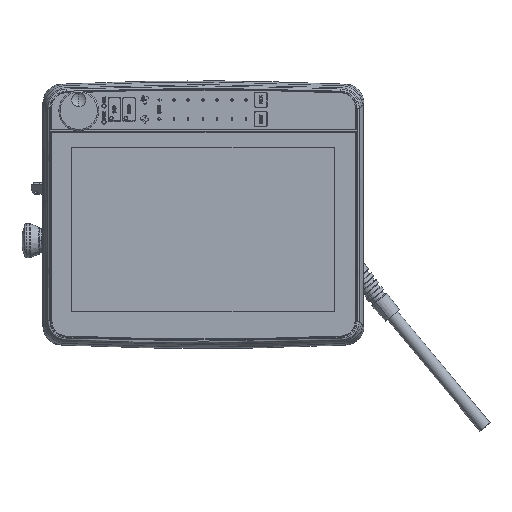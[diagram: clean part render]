
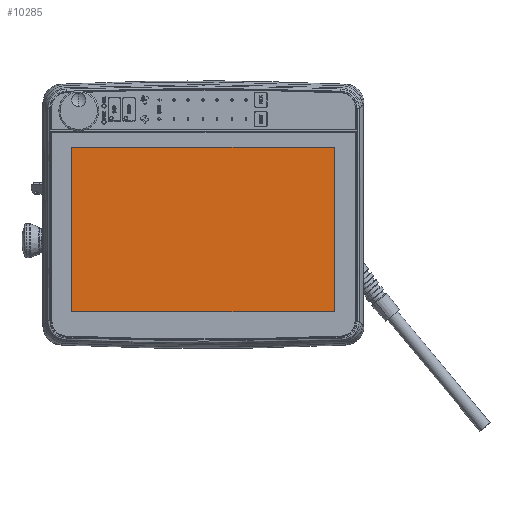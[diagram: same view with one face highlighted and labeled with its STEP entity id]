
A CAD part, top view. The second image highlights one B-rep face of the part: STEP entity #10285.
In plain terms, the highlighted planar face has unit normal (0, 0, 1).
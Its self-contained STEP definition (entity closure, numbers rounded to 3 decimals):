
#10285=ADVANCED_FACE('',(#22187),#22188,.F.);
#22187=FACE_OUTER_BOUND('',#58406,.T.);
#22188=PLANE('',#58407);
#58406=EDGE_LOOP('',(#123616,#123617,#123618,#123619));
#58407=AXIS2_PLACEMENT_3D('',#123620,#123621,#123622);
#123616=ORIENTED_EDGE('',*,*,#146702,.F.);
#123617=ORIENTED_EDGE('',*,*,#146703,.F.);
#123618=ORIENTED_EDGE('',*,*,#146704,.F.);
#123619=ORIENTED_EDGE('',*,*,#146705,.F.);
#123620=CARTESIAN_POINT('',(0.,0.,11.75));
#123621=DIRECTION('',(0.0,0.0,-1.0));
#123622=DIRECTION('',(-1.0,0.0,0.0));
#146702=EDGE_CURVE('',#167487,#167488,#167489,.T.);
#146703=EDGE_CURVE('',#167490,#167487,#167491,.T.);
#146704=EDGE_CURVE('',#167492,#167490,#167493,.T.);
#146705=EDGE_CURVE('',#167488,#167492,#167494,.T.);
#167487=VERTEX_POINT('',#218982);
#167488=VERTEX_POINT('',#218983);
#167489=LINE('',#218984,#218985);
#167490=VERTEX_POINT('',#218986);
#167491=LINE('',#218987,#218988);
#167492=VERTEX_POINT('',#218989);
#167493=LINE('',#218990,#218991);
#167494=LINE('',#218992,#218993);
#218982=CARTESIAN_POINT('',(-109.33,-80.45,11.75));
#218983=CARTESIAN_POINT('',(-109.33,55.85,11.75));
#218984=CARTESIAN_POINT('',(-109.33,-80.45,11.75));
#218985=VECTOR('',#260541,1000.0);
#218986=CARTESIAN_POINT('',(108.33,-80.45,11.75));
#218987=CARTESIAN_POINT('',(108.33,-80.45,11.75));
#218988=VECTOR('',#260542,1000.0);
#218989=CARTESIAN_POINT('',(108.33,55.85,11.75));
#218990=CARTESIAN_POINT('',(108.33,55.85,11.75));
#218991=VECTOR('',#260543,1000.0);
#218992=CARTESIAN_POINT('',(-109.33,55.85,11.75));
#218993=VECTOR('',#260544,1000.0);
#260541=DIRECTION('',(0.,1.0,0.0));
#260542=DIRECTION('',(-1.0,0.,0.0));
#260543=DIRECTION('',(0.,-1.0,0.0));
#260544=DIRECTION('',(1.0,0.,0.0));
